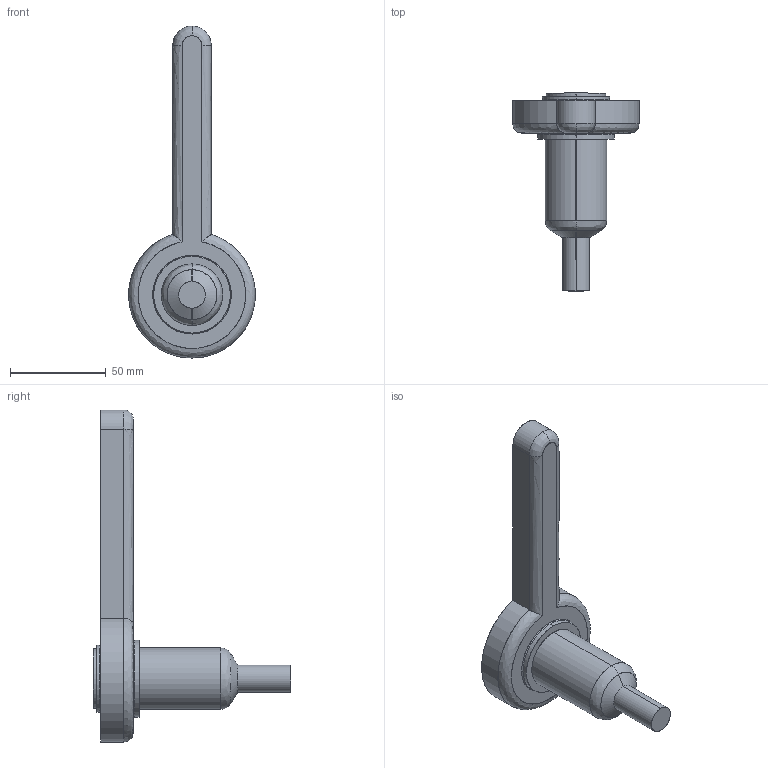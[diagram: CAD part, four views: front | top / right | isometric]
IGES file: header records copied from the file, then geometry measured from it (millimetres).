
Start section: SolidWorks IGES file using analytic representation for surfaces
Global section: file name: C:\Documents and Settings\ws-20\Desktop\TEMPORANEA\Sede UGBE4001-S-A C-54 L-76 P-25.IGS; native system: SolidWorks 2012; preprocessor: SolidWorks 2012; author: ws-20; date: 120306.141606; units: millimetre
Bounding box: 65.98 x 103.14 x 173 mm (x, y, z)
Surface area: 23834.2 mm2 (no closed solid volume)
Topology: 0 solids, 0 shells, 34 faces, 786 edges, 786 vertices
Faces by surface type: revolution 21, bspline 13
